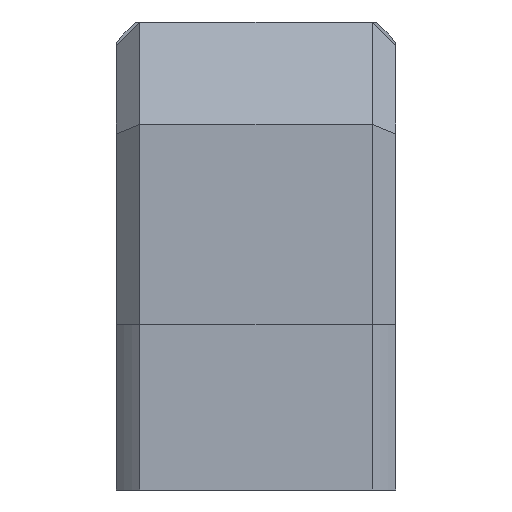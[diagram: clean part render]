
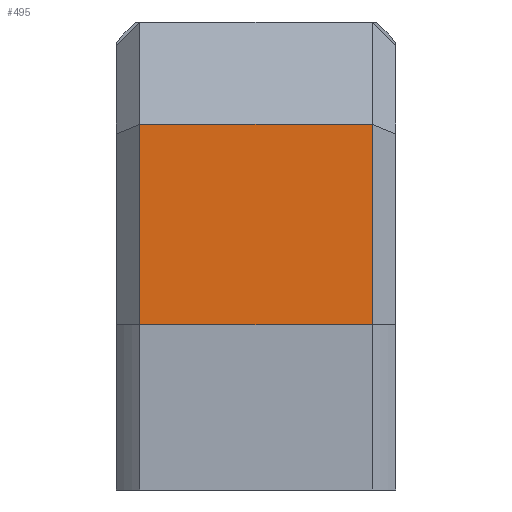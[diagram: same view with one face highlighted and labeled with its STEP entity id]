
A CAD part, front view. The second image highlights one B-rep face of the part: STEP entity #495.
In plain terms, the highlighted planar face has unit normal (0, -1, 0).
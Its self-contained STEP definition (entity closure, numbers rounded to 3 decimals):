
#495 = ADVANCED_FACE ( 'NONE', ( #20113 ), #18554, .F. ) ;
#678 = VERTEX_POINT ( 'NONE', #7281 ) ;
#2165 = EDGE_CURVE ( 'NONE', #4678, #9068, #14081, .T. ) ;
#2442 = LINE ( 'NONE', #6331, #6213 ) ;
#2976 = ORIENTED_EDGE ( 'NONE', *, *, #15955, .F. ) ;
#4140 = AXIS2_PLACEMENT_3D ( 'NONE', #18271, #18086, #18056 ) ;
#4454 = CARTESIAN_POINT ( 'NONE',  ( 25., -35.75, 8. ) ) ;
#4678 = VERTEX_POINT ( 'NONE', #8309 ) ;
#5077 = ORIENTED_EDGE ( 'NONE', *, *, #18126, .T. ) ;
#5264 = VERTEX_POINT ( 'NONE', #4454 ) ;
#5900 = CARTESIAN_POINT ( 'NONE',  ( 30., -35.75, 8. ) ) ;
#6213 = VECTOR ( 'NONE', #15383, 1000. ) ;
#6298 = EDGE_LOOP ( 'NONE', ( #5077, #15107, #2976, #8570 ) ) ;
#6331 = CARTESIAN_POINT ( 'NONE',  ( 25., -35.75, 8. ) ) ;
#7091 = DIRECTION ( 'NONE',  ( -1., 0., 0. ) ) ;
#7281 = CARTESIAN_POINT ( 'NONE',  ( 25., -35.75, -35. ) ) ;
#8092 = VECTOR ( 'NONE', #19680, 1000. ) ;
#8309 = CARTESIAN_POINT ( 'NONE',  ( -25., -35.75, 8. ) ) ;
#8570 = ORIENTED_EDGE ( 'NONE', *, *, #18309, .T. ) ;
#9068 = VERTEX_POINT ( 'NONE', #20055 ) ;
#9786 = VECTOR ( 'NONE', #7091, 1000. ) ;
#12178 = LINE ( 'NONE', #5900, #8092 ) ;
#13134 = VECTOR ( 'NONE', #14541, 1000. ) ;
#13761 = CARTESIAN_POINT ( 'NONE',  ( -25., -35.75, 30. ) ) ;
#14081 = LINE ( 'NONE', #13761, #13134 ) ;
#14541 = DIRECTION ( 'NONE',  ( 0., 0., -1. ) ) ;
#15107 = ORIENTED_EDGE ( 'NONE', *, *, #2165, .T. ) ;
#15383 = DIRECTION ( 'NONE',  ( 0., 0., 1. ) ) ;
#15955 = EDGE_CURVE ( 'NONE', #678, #9068, #17927, .T. ) ;
#16154 = CARTESIAN_POINT ( 'NONE',  ( 30., -35.75, -35. ) ) ;
#17927 = LINE ( 'NONE', #16154, #9786 ) ;
#18056 = DIRECTION ( 'NONE',  ( 1., 0., 0. ) ) ;
#18086 = DIRECTION ( 'NONE',  ( 0., 1., 0. ) ) ;
#18126 = EDGE_CURVE ( 'NONE', #5264, #4678, #12178, .T. ) ;
#18271 = CARTESIAN_POINT ( 'NONE',  ( 30., -35.75, 30. ) ) ;
#18309 = EDGE_CURVE ( 'NONE', #678, #5264, #2442, .T. ) ;
#18554 = PLANE ( 'NONE',  #4140 ) ;
#19680 = DIRECTION ( 'NONE',  ( -1., 0., 0. ) ) ;
#20055 = CARTESIAN_POINT ( 'NONE',  ( -25., -35.75, -35. ) ) ;
#20113 = FACE_OUTER_BOUND ( 'NONE', #6298, .T. ) ;
